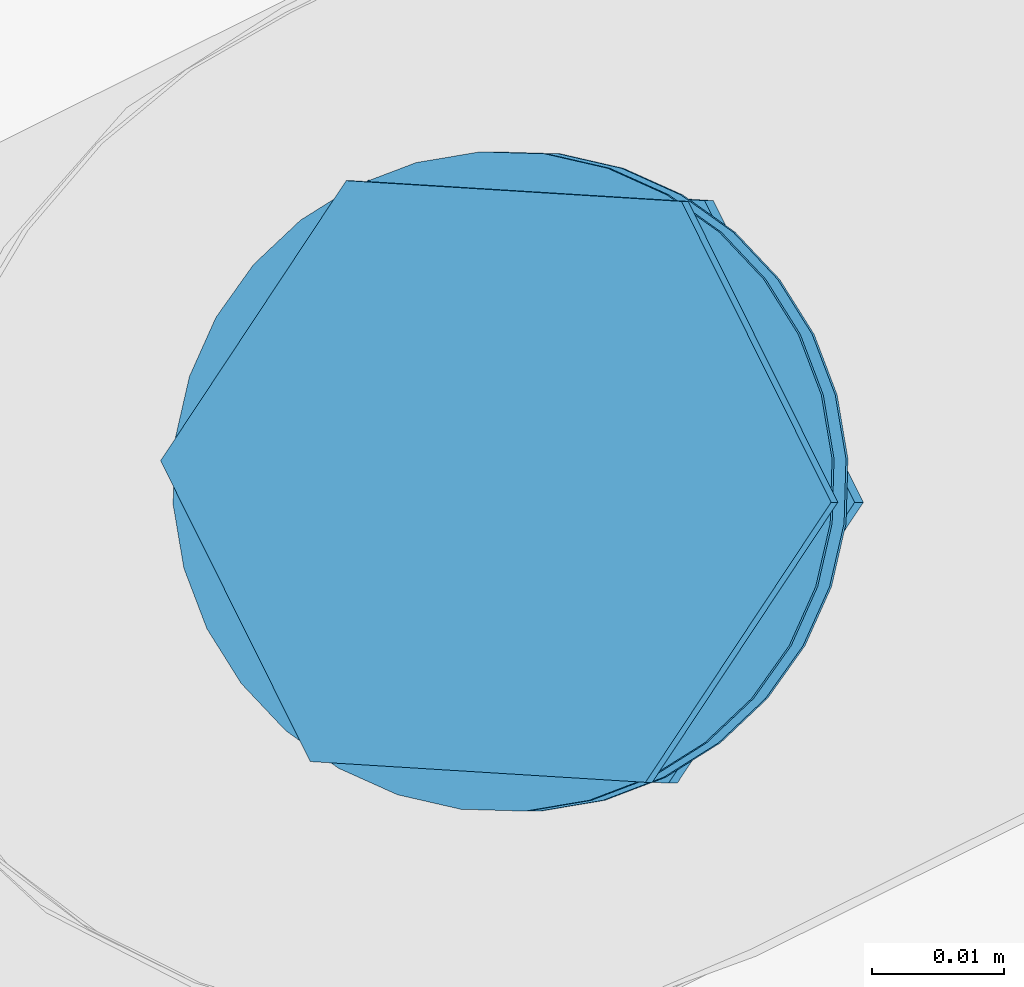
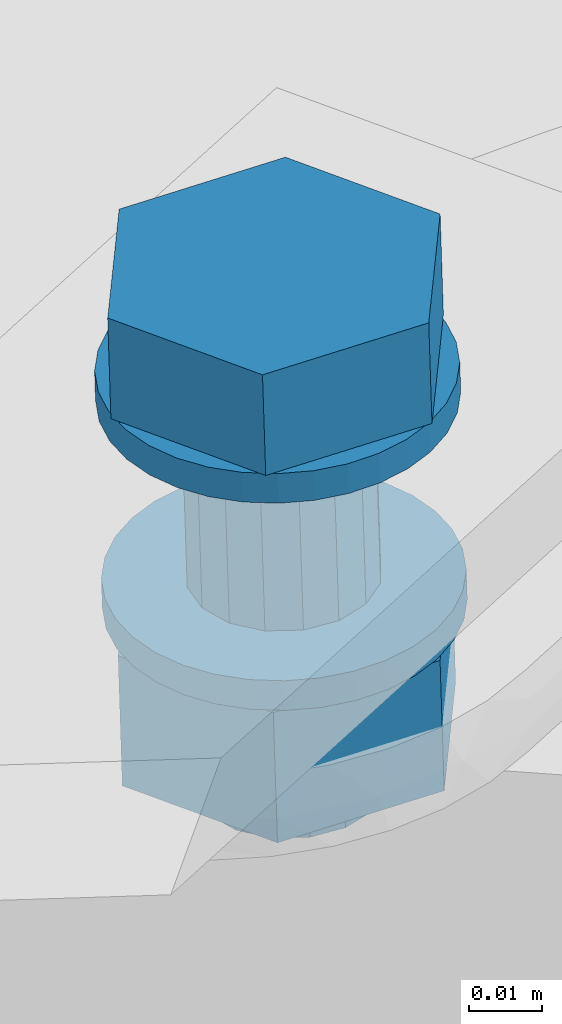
# One storey, part 249 of 476: 1 mechanical fastener.
"""IFC2X3 building model written with IfcOpenShell, lengths in millimetres."""

from ifc_helpers import new_model, entity, si_unit, converted_unit, origin_with_axes, place, context, project, spatial, faceted_brep, element, save


model = new_model("IFC2X3")

# Units and contexts
model_context = context("Model", 3, precision=1e-09, world=origin_with_axes())
ifc_project = project(units=[si_unit("LENGTHUNIT", "METRE", prefix="MILLI"), si_unit("AREAUNIT", "SQUARE_METRE"), si_unit("VOLUMEUNIT", "CUBIC_METRE"), converted_unit("PLANEANGLEUNIT", "DEGREE", entity("IfcPlaneAngleMeasure", 0.01745329), si_unit("PLANEANGLEUNIT", "RADIAN"), dimensions=[0, 0, 0, 0, 0, 0, 0])], contexts=[model_context])

# Site, building, storey
site_placement = place(None, origin_with_axes())
site = spatial("IfcSite", under=ifc_project, at=site_placement, Name="mKR Teilneubau & Sanierung BA1 - Ostfildern", CompositionType="ELEMENT")
building_placement = place(site_placement, origin_with_axes())
building = spatial("IfcBuilding", under=site, at=building_placement, Name="Struktur 1", CompositionType="ELEMENT")
storey_placement = place(building_placement, origin_with_axes())
storey = spatial("IfcBuildingStorey", under=building, at=storey_placement, Name="Default Storey", CompositionType="ELEMENT", Elevation=0.0)

# Mechanical fastener
mechanical_fastener_placement = place(None, origin_with_axes())
element("IfcMechanicalFastener", 1, at=mechanical_fastener_placement, inside=storey, ObjectType="-", NominalDiameter=27.0, NominalLength=70.0, context=model_context, shape_type="Brep", body=[
    faceted_brep([(21050.221548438, -2965.505119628, 5621.656388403), (21050.371758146, -2965.505119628, 5616.658645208), (21047.769951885, -2961.35266389, 5616.5804466), (21047.619742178, -2961.35266389, 5621.578189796), (21044.408400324, -2957.787812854, 5616.479413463), (21044.258190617, -2957.787812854, 5621.477156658), (21040.416286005, -2954.947561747, 5616.359428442), (21040.266076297, -2954.947561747, 5621.357171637), (21035.947023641, -2952.941059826, 5616.225102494), (21035.796813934, -2952.941059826, 5621.222845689), (21031.172364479, -2951.845415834, 5616.08159769), (21031.022154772, -2951.845415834, 5621.079340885), (21026.275795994, -2951.702734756, 5615.93442884), (21026.125586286, -2951.702734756, 5620.932172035), (21021.445490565, -2952.518499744, 5615.78925156), (21021.295280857, -2952.518499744, 5620.786994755), (21016.867074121, -2954.261361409, 5615.651644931), (21016.716864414, -2954.261361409, 5620.649388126), (21012.71649264, -2956.864342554, 5615.526897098), (21012.566282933, -2956.864342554, 5620.524640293), (21009.153250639, -2960.227412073, 5615.419802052), (21009.003040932, -2960.227412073, 5620.417545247), (21006.314281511, -2964.221329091, 5615.334475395), (21006.164071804, -2964.221329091, 5620.33221859), (21004.308685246, -2968.692609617, 5615.274196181), (21004.158475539, -2968.692609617, 5620.271939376), (21003.213535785, -2973.469424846, 5615.241280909), (21003.063326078, -2973.469424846, 5620.239024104), (21003.070919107, -2978.36820445, 5615.236994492), (21002.9207094, -2978.36820445, 5620.234737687), (21003.886315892, -2983.200691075, 5615.261501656), (21003.736106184, -2983.200691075, 5620.259244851), (21005.628390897, -2987.78117497, 5615.313860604), (21005.47818119, -2987.78117497, 5620.311603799), (21008.230197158, -2991.933630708, 5615.392059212), (21008.07998745, -2991.933630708, 5620.389802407), (21011.591748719, -2995.498481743, 5615.493092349), (21011.441539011, -2995.498481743, 5620.490835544), (21015.583863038, -2998.33873285, 5615.61307737), (21015.433653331, -2998.33873285, 5620.610820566), (21020.053125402, -3000.345234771, 5615.747403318), (21019.902915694, -3000.345234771, 5620.745146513), (21024.827784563, -3001.440878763, 5615.890908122), (21024.677574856, -3001.440878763, 5620.888651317), (21029.724353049, -3001.583559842, 5616.038076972), (21029.574143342, -3001.583559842, 5621.035820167), (21034.554658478, -3000.767794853, 5616.183254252), (21034.404448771, -3000.767794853, 5621.180997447), (21039.133074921, -2999.024933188, 5616.320860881), (21038.982865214, -2999.024933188, 5621.318604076), (21043.283656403, -2996.421952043, 5616.445608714), (21043.133446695, -2996.421952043, 5621.443351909), (21046.846898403, -2993.058882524, 5616.55270376), (21046.696688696, -2993.058882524, 5621.550446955), (21049.685867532, -2989.064965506, 5616.638030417), (21049.535657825, -2989.064965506, 5621.635773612), (21051.691463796, -2984.593684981, 5616.698309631), (21051.541254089, -2984.593684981, 5621.696052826), (21052.786613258, -2979.816869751, 5616.731224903), (21052.63640355, -2979.816869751, 5621.728968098), (21052.929229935, -2974.918090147, 5616.73551132), (21052.779020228, -2974.918090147, 5621.733254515), (21052.113833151, -2970.085603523, 5616.711004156), (21051.963623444, -2970.085603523, 5621.708747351)], [[[0, 1, 2, 3]], [[3, 2, 4, 5]], [[5, 4, 6, 7]], [[7, 6, 8, 9]], [[9, 8, 10, 11]], [[11, 10, 12, 13]], [[13, 12, 14, 15]], [[15, 14, 16, 17]], [[17, 16, 18, 19]], [[19, 18, 20, 21]], [[21, 20, 22, 23]], [[23, 22, 24, 25]], [[25, 24, 26, 27]], [[27, 26, 28, 29]], [[29, 28, 30, 31]], [[31, 30, 32, 33]], [[33, 32, 34, 35]], [[35, 34, 36, 37]], [[37, 36, 38, 39]], [[39, 38, 40, 41]], [[41, 40, 42, 43]], [[43, 42, 44, 45]], [[45, 44, 46, 47]], [[47, 46, 48, 49]], [[49, 48, 50, 51]], [[51, 50, 52, 53]], [[53, 52, 54, 55]], [[55, 54, 56, 57]], [[57, 56, 58, 59]], [[59, 58, 60, 61]], [[61, 60, 62, 63]], [[63, 62, 1, 0]], [[0, 3, 5, 7, 9, 11, 13, 15, 17, 19, 21, 23, 25, 27, 29, 31, 33, 35, 37, 39, 41, 43, 45, 47, 49, 51, 53, 55, 57, 59, 61, 63]], [[1, 62, 60, 58, 56, 54, 52, 50, 48, 46, 44, 42, 40, 38, 36, 34, 32, 30, 28, 26, 24, 22, 20, 18, 16, 14, 12, 10, 8, 6, 4, 2]]]),
    faceted_brep([(21002.484922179, -2975.071802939, 5620.221639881), (21001.974209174, -2975.071802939, 5637.213966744), (21016.016890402, -2953.880871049, 5637.636026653), (21016.527603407, -2953.880871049, 5620.64369979), (21041.381833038, -2955.452215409, 5638.398382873), (21041.892546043, -2955.452215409, 5621.40605601), (21052.704094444, -2978.214491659, 5638.738679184), (21053.214807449, -2978.214491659, 5621.746352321), (21038.661413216, -2999.405423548, 5638.316619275), (21039.172126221, -2999.405423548, 5621.324292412), (21013.29647058, -2997.834079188, 5637.554263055), (21013.807183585, -2997.834079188, 5620.561936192)], [[[0, 1, 2, 3]], [[3, 2, 4, 5]], [[5, 4, 6, 7]], [[7, 6, 8, 9]], [[9, 8, 10, 11]], [[11, 10, 1, 0]], [[4, 2, 1, 10, 8, 6]], [[0, 3, 5, 7, 9, 11]]]),
    faceted_brep([(21040.080793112, -2970.628612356, 5616.349030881), (21040.982041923, -2970.628612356, 5586.362885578), (21037.761828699, -2966.461266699, 5586.266100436), (21036.860579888, -2966.461266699, 5616.252245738), (21033.19268529, -2963.844020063, 5586.128772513), (21032.291436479, -2963.844020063, 5616.114917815), (21027.97022236, -2963.175324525, 5585.97180874), (21027.06897355, -2963.175324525, 5615.957954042), (21022.88951255, -2964.556982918, 5585.819105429), (21021.988263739, -2964.556982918, 5615.805250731), (21018.724047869, -2967.778650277, 5585.693910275), (21017.822799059, -2967.778650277, 5615.680055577), (21016.107982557, -2972.34985695, 5585.615283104), (21015.206733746, -2972.34985695, 5615.601428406), (21015.439588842, -2977.57467816, 5585.595194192), (21014.538340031, -2977.57467816, 5615.581339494), (21016.820623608, -2982.657682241, 5585.636701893), (21015.919374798, -2982.657682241, 5615.622847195), (21020.040836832, -2986.825027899, 5585.733487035), (21019.139588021, -2986.825027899, 5615.719632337), (21024.609980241, -2989.442274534, 5585.870814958), (21023.70873143, -2989.442274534, 5615.85696026), (21029.83244317, -2990.110970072, 5586.027778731), (21028.93119436, -2990.110970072, 5616.013924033), (21034.913152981, -2988.729311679, 5586.180482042), (21034.011904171, -2988.729311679, 5616.166627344), (21039.078617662, -2985.50764432, 5586.305677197), (21038.177368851, -2985.50764432, 5616.291822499), (21041.694682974, -2980.936437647, 5586.384304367), (21040.793434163, -2980.936437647, 5616.370449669), (21042.363076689, -2975.711616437, 5586.404393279), (21041.461827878, -2975.711616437, 5616.390538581)], [[[0, 1, 2, 3]], [[3, 2, 4, 5]], [[5, 4, 6, 7]], [[7, 6, 8, 9]], [[9, 8, 10, 11]], [[11, 10, 12, 13]], [[13, 12, 14, 15]], [[15, 14, 16, 17]], [[17, 16, 18, 19]], [[19, 18, 20, 21]], [[21, 20, 22, 23]], [[23, 22, 24, 25]], [[25, 24, 26, 27]], [[27, 26, 28, 29]], [[29, 28, 30, 31]], [[31, 30, 1, 0]], [[0, 3, 5, 7, 9, 11, 13, 15, 17, 19, 21, 23, 25, 27, 29, 31]], [[1, 30, 28, 26, 24, 22, 20, 18, 16, 14, 12, 10, 8, 6, 4, 2]]]),
    faceted_brep([(21051.27301639, -2965.505119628, 5586.672186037), (21051.423226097, -2965.505119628, 5581.674442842), (21048.821419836, -2961.35266389, 5581.596244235), (21048.671210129, -2961.35266389, 5586.59398743), (21045.459868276, -2957.787812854, 5581.495211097), (21045.309658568, -2957.787812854, 5586.492954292), (21041.467753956, -2954.947561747, 5581.375226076), (21041.317544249, -2954.947561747, 5586.372969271), (21036.998491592, -2952.941059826, 5581.240900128), (21036.848281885, -2952.941059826, 5586.238643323), (21032.223832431, -2951.845415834, 5581.097395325), (21032.073622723, -2951.845415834, 5586.09513852), (21027.327263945, -2951.702734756, 5580.950226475), (21027.177054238, -2951.702734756, 5585.94796967), (21022.496958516, -2952.518499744, 5580.805049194), (21022.346748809, -2952.518499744, 5585.802792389), (21017.918542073, -2954.261361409, 5580.667442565), (21017.768332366, -2954.261361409, 5585.66518576), (21013.767960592, -2956.864342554, 5580.542694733), (21013.617750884, -2956.864342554, 5585.540437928), (21010.204718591, -2960.227412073, 5580.435599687), (21010.054508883, -2960.227412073, 5585.433342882), (21007.365749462, -2964.221329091, 5580.350273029), (21007.215539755, -2964.221329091, 5585.348016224), (21005.360153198, -2968.692609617, 5580.289993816), (21005.20994349, -2968.692609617, 5585.287737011), (21004.265003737, -2973.469424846, 5580.257078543), (21004.114794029, -2973.469424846, 5585.254821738), (21004.122387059, -2978.36820445, 5580.252792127), (21003.972177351, -2978.36820445, 5585.250535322), (21004.937783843, -2983.200691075, 5580.277299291), (21004.787574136, -2983.200691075, 5585.275042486), (21006.679858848, -2987.78117497, 5580.329658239), (21006.529649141, -2987.78117497, 5585.327401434), (21009.281665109, -2991.933630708, 5580.407856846), (21009.131455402, -2991.933630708, 5585.405600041), (21012.64321667, -2995.498481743, 5580.508889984), (21012.493006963, -2995.498481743, 5585.506633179), (21016.635330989, -2998.33873285, 5580.628875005), (21016.485121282, -2998.33873285, 5585.6266182), (21021.104593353, -3000.345234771, 5580.763200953), (21020.954383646, -3000.345234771, 5585.760944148), (21025.879252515, -3001.440878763, 5580.906705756), (21025.729042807, -3001.440878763, 5585.904448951), (21030.775821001, -3001.583559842, 5581.053874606), (21030.625611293, -3001.583559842, 5586.051617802), (21035.606126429, -3000.767794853, 5581.199051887), (21035.455916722, -3000.767794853, 5586.196795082), (21040.184542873, -2999.024933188, 5581.336658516), (21040.034333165, -2999.024933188, 5586.334401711), (21044.335124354, -2996.421952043, 5581.461406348), (21044.184914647, -2996.421952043, 5586.459149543), (21047.898366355, -2993.058882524, 5581.568501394), (21047.748156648, -2993.058882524, 5586.566244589), (21050.737335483, -2989.064965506, 5581.653828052), (21050.587125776, -2989.064965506, 5586.651571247), (21052.742931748, -2984.593684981, 5581.714107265), (21052.592722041, -2984.593684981, 5586.71185046), (21053.838081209, -2979.816869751, 5581.747022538), (21053.687871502, -2979.816869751, 5586.744765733), (21053.980697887, -2974.918090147, 5581.751308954), (21053.830488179, -2974.918090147, 5586.749052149), (21053.165301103, -2970.085603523, 5581.72680179), (21053.015091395, -2970.085603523, 5586.724544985)], [[[0, 1, 2, 3]], [[3, 2, 4, 5]], [[5, 4, 6, 7]], [[7, 6, 8, 9]], [[9, 8, 10, 11]], [[11, 10, 12, 13]], [[13, 12, 14, 15]], [[15, 14, 16, 17]], [[17, 16, 18, 19]], [[19, 18, 20, 21]], [[21, 20, 22, 23]], [[23, 22, 24, 25]], [[25, 24, 26, 27]], [[27, 26, 28, 29]], [[29, 28, 30, 31]], [[31, 30, 32, 33]], [[33, 32, 34, 35]], [[35, 34, 36, 37]], [[37, 36, 38, 39]], [[39, 38, 40, 41]], [[41, 40, 42, 43]], [[43, 42, 44, 45]], [[45, 44, 46, 47]], [[47, 46, 48, 49]], [[49, 48, 50, 51]], [[51, 50, 52, 53]], [[53, 52, 54, 55]], [[55, 54, 56, 57]], [[57, 56, 58, 59]], [[59, 58, 60, 61]], [[61, 60, 62, 63]], [[63, 62, 1, 0]], [[0, 3, 5, 7, 9, 11, 13, 15, 17, 19, 21, 23, 25, 27, 29, 31, 33, 35, 37, 39, 41, 43, 45, 47, 49, 51, 53, 55, 57, 59, 61, 63]], [[1, 62, 60, 58, 56, 54, 52, 50, 48, 46, 44, 42, 40, 38, 36, 34, 32, 30, 28, 26, 24, 22, 20, 18, 16, 14, 12, 10, 8, 6, 4, 2]]]),
    faceted_brep([(21004.27269971, -2975.067167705, 5558.247375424), (21003.611776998, -2975.067167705, 5580.237445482), (21017.695882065, -2953.813725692, 5580.660750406), (21018.356804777, -2953.813725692, 5558.670680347), (21043.13564754, -2955.389705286, 5581.425355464), (21043.796570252, -2955.389705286, 5559.435285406), (21054.491307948, -2978.219126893, 5581.766655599), (21055.15223066, -2978.219126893, 5559.776585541), (21040.407202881, -2999.472568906, 5581.343350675), (21041.068125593, -2999.472568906, 5559.353280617), (21014.967437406, -2997.896589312, 5580.578745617), (21015.628360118, -2997.896589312, 5558.588675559)], [[[0, 1, 2, 3]], [[3, 2, 4, 5]], [[5, 4, 6, 7]], [[7, 6, 8, 9]], [[9, 8, 10, 11]], [[11, 10, 1, 0]], [[4, 2, 1, 10, 8, 6]], [[0, 3, 5, 7, 9, 11]]]),
    faceted_brep([(21041.793164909, -2970.628612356, 5559.375386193), (21042.033509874, -2970.628612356, 5551.378683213), (21038.81329665, -2966.461266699, 5551.281898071), (21038.572951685, -2966.461266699, 5559.278601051), (21034.244153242, -2963.844020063, 5551.144570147), (21034.003808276, -2963.844020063, 5559.141273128), (21029.021690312, -2963.175324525, 5550.987606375), (21028.781345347, -2963.175324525, 5558.984309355), (21023.940980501, -2964.556982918, 5550.834903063), (21023.700635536, -2964.556982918, 5558.831606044), (21019.775515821, -2967.778650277, 5550.709707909), (21019.535170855, -2967.778650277, 5558.70641089), (21017.159450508, -2972.34985695, 5550.631080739), (21016.919105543, -2972.34985695, 5558.627783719), (21016.491056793, -2977.57467816, 5550.610991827), (21016.250711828, -2977.57467816, 5558.607694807), (21017.87209156, -2982.657682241, 5550.652499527), (21017.631746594, -2982.657682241, 5558.649202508), (21021.092304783, -2986.825027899, 5550.749284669), (21020.851959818, -2986.825027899, 5558.74598765), (21025.661448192, -2989.442274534, 5550.886612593), (21025.421103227, -2989.442274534, 5558.883315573), (21030.883911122, -2990.110970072, 5551.043576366), (21030.643566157, -2990.110970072, 5559.040279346), (21035.964620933, -2988.729311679, 5551.196279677), (21035.724275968, -2988.729311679, 5559.192982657), (21040.130085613, -2985.50764432, 5551.321474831), (21039.889740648, -2985.50764432, 5559.318177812), (21042.746150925, -2980.936437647, 5551.400102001), (21042.50580596, -2980.936437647, 5559.396804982), (21043.41454464, -2975.711616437, 5551.420190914), (21043.174199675, -2975.711616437, 5559.416893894)], [[[0, 1, 2, 3]], [[3, 2, 4, 5]], [[5, 4, 6, 7]], [[7, 6, 8, 9]], [[9, 8, 10, 11]], [[11, 10, 12, 13]], [[13, 12, 14, 15]], [[15, 14, 16, 17]], [[17, 16, 18, 19]], [[19, 18, 20, 21]], [[21, 20, 22, 23]], [[23, 22, 24, 25]], [[25, 24, 26, 27]], [[27, 26, 28, 29]], [[29, 28, 30, 31]], [[31, 30, 1, 0]], [[0, 3, 5, 7, 9, 11, 13, 15, 17, 19, 21, 23, 25, 27, 29, 31]], [[1, 30, 28, 26, 24, 22, 20, 18, 16, 14, 12, 10, 8, 6, 4, 2]]]),
])

save(model, "model.ifc")
